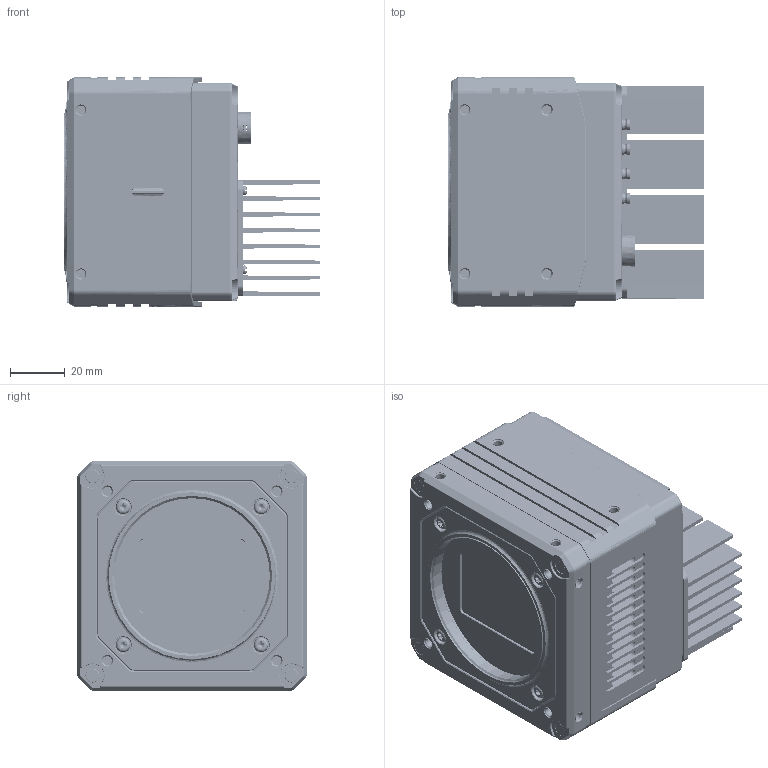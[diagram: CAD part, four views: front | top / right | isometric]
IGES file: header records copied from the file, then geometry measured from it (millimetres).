
Start section:  PTC IGES file: 22344.igs
Global section: file name: 22344.igs; native system: Creo Parametric by PTC Inc.; preprocessor: 2017260; author: wangyijun6; organization: Unknown; date: 20210810.201821; units: millimetre
Bounding box: 93.44 x 84.36 x 84.36 mm (x, y, z)
Volume: 396886.1 mm3; surface area: 141774.6 mm2
Topology: 1 solids, 110 shells, 3795 faces, 11161 edges, 8548 vertices
Faces by surface type: revolution 2173, bspline 1574, extrusion 48
